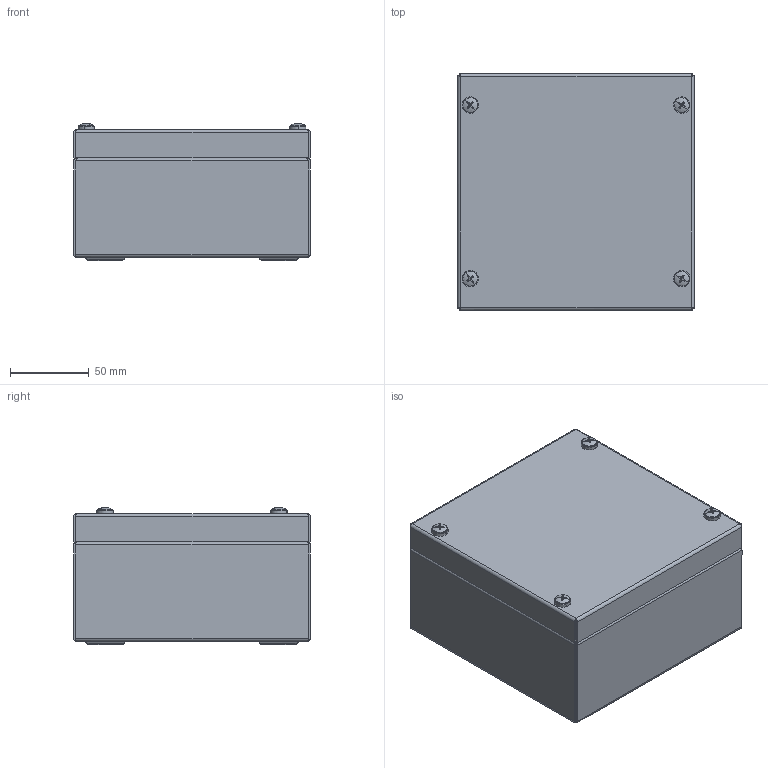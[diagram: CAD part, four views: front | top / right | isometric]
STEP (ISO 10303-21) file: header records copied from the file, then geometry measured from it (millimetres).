
FILE_DESCRIPTION (( 'STEP AP203' ), '1' );
FILE_NAME ('SS JB-150 x 150 x 81 Assembly.STEP', '2020-03-13T10:17:39', ( '' ), ( '' ), 'SwSTEP 2.0', 'SolidWorks 2018', '' );
FILE_SCHEMA (( 'CONFIG_CONTROL_DESIGN' ));
Length unit declared in the file: millimetre
Products named in the file (8): SS JB-150 x 150 x 81-BASE_300 X 150 X 81; SS JB-150 x 150 x 81-LID_300 x 150 x 81; SS JB-150 x 150 x 81 Assembly; PLASTIC INSERT FOR FABRICATED ENCLOSURE; M5X33 LID SCREW; Dinral Mounting Channel-150; VMQ Silicon Gasket-SJB-150 x 150 x 81; M5 BLIND NUTSERT
Assembly tree (17 placements, depth 2):
  SS JB-150 x 150 x 81 Assembly
    SS JB-150 x 150 x 81-BASE_300 X 150 X 81
    Dinral Mounting Channel-150  x2
    SS JB-150 x 150 x 81-LID_300 x 150 x 81
    M5 BLIND NUTSERT  x4
    M5X33 LID SCREW  x4
    PLASTIC INSERT FOR FABRICATED ENCLOSURE  x4
    VMQ Silicon Gasket-SJB-150 x 150 x 81
Bounding box: 150 x 150 x 86.81 mm (x, y, z)
Volume: 188582.9 mm3; surface area: 253473.1 mm2
Topology: 17 solids, 17 shells, 745 faces, 1786 edges, 1108 vertices
Faces by surface type: cylinder 326, plane 275, cone 104, bspline 32, sphere 8
Entity records: 15964 total; most frequent: CARTESIAN_POINT 5135, ORIENTED_EDGE 2088, DIRECTION 1861, EDGE_CURVE 1044, VERTEX_POINT 634, AXIS2_PLACEMENT_3D 629, LINE 603, VECTOR 603
